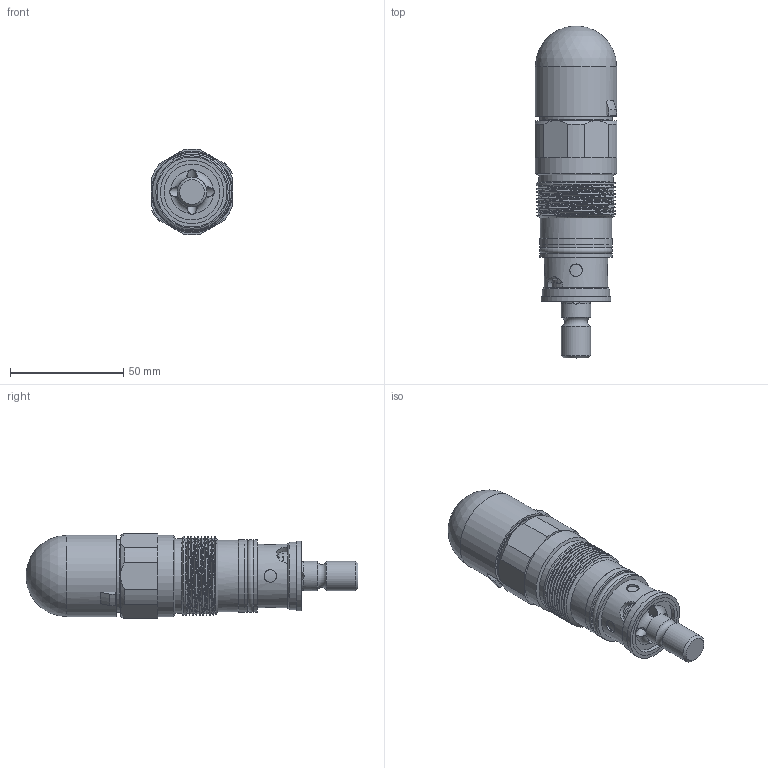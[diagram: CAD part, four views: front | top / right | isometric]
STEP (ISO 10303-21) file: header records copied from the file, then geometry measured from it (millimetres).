
FILE_DESCRIPTION(/* description */ (''),/* implementation_level */ '2;1');
FILE_NAME(/* name */ 'DBDS10K-1XJ插装式直动型溢流阀.prt.stp',/* time_stamp */ '2022-03-30T20:14:37+08:00',/* author */ (''),/* organization */ (''),/* preprocessor_version */ 'ST-DEVELOPER v16.7',/* originating_system */ 'SIEMENS PLM Software NX 12.0',/* authorisation */ '');
FILE_SCHEMA (('AUTOMOTIVE_DESIGN { 1 0 10303 214 3 1 1 1 }'));
Length unit declared in the file: millimetre
Products named in the file (1): DBDS10K-1XJ插装式直动型溢流阀
Bounding box: 36 x 146.84 x 37.92 mm (x, y, z)
Volume: 100339.1 mm3; surface area: 34385.2 mm2
Topology: 10 solids, 11 shells, 361 faces, 827 edges, 499 vertices
Faces by surface type: plane 220, cylinder 75, cone 39, torus 19, bspline 6, sphere 2
Full cylindrical faces by diameter (mm): 1 x1, 2 x1, 3.1 x2, 4.5 x4, 5.5 x4, 5.7 x1, 6 x2, 6.2 x1, 10 x1, 13 x2, 19.7 x1, 20 x1, 21.3 x1, 22.5 x2, 24.8 x1, 25 x1, 27.3 x2, 28 x3, 30 x2, 31 x1, 31.5 x1, 32 x6, 32.9 x1, 34 x1, 36 x2
Entity records: 17617 total; most frequent: CARTESIAN_POINT 10133, DIRECTION 1471, ORIENTED_EDGE 1436, EDGE_CURVE 718, AXIS2_PLACEMENT_3D 600, VERTEX_POINT 480, EDGE_LOOP 472, ADVANCED_FACE 361
